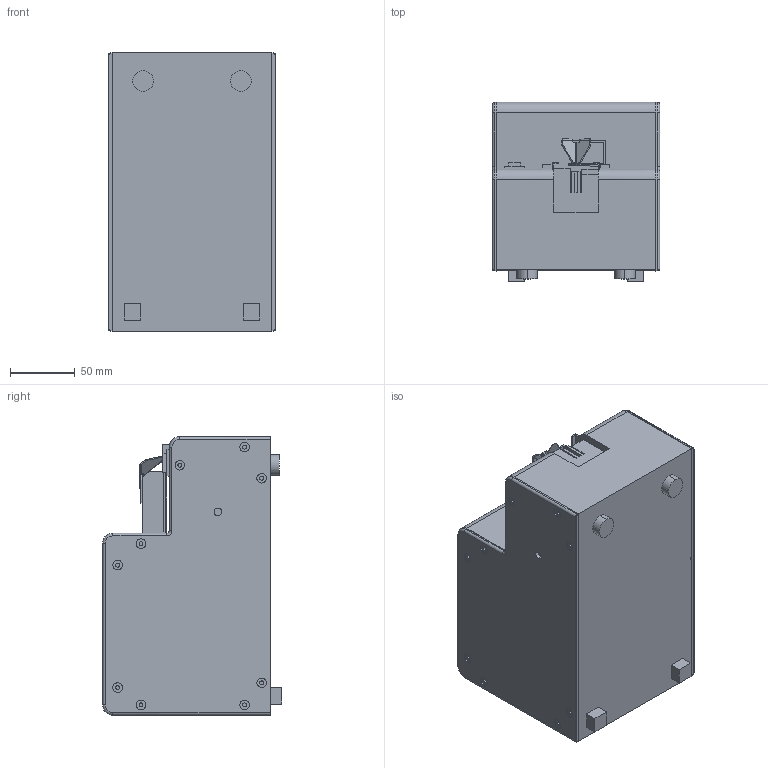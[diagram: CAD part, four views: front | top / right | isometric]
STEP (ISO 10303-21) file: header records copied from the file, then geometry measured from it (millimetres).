
FILE_DESCRIPTION (( 'STEP AP203' ), '1' );
FILE_NAME ('HS.STEP', '2025-10-30T07:58:07', ( '' ), ( '' ), 'SwSTEP 2.0', 'SolidWorks 2021', '' );
FILE_SCHEMA (( 'CONFIG_CONTROL_DESIGN' ));
Length unit declared in the file: millimetre
Products named in the file (1): HS
Bounding box: 129.4 x 138.8 x 215 mm (x, y, z)
Volume: 3095465.4 mm3; surface area: 250751.5 mm2
Topology: 5 solids, 5 shells, 680 faces, 1743 edges, 1139 vertices
Faces by surface type: plane 385, cylinder 237, bspline 40, cone 8, torus 8, sphere 2
Entity records: 22258 total; most frequent: CARTESIAN_POINT 5469, ORIENTED_EDGE 3486, DIRECTION 3387, EDGE_CURVE 1743, VECTOR 1161, LINE 1161, VERTEX_POINT 1139, AXIS2_PLACEMENT_3D 1113
